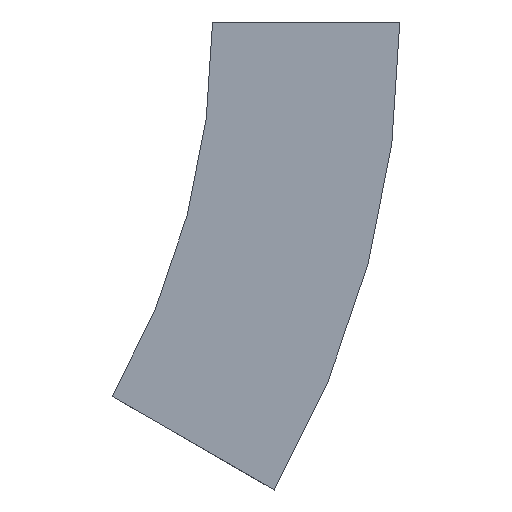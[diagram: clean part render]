
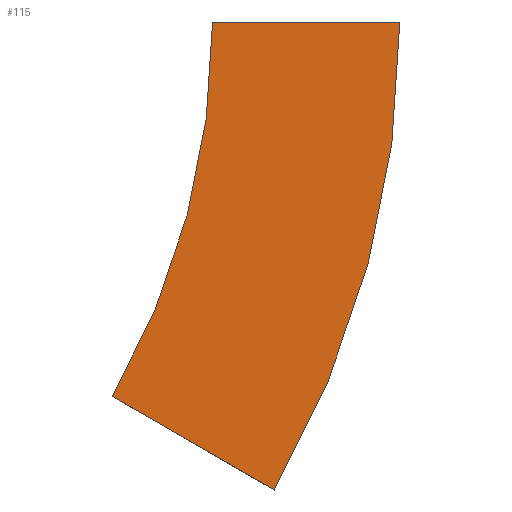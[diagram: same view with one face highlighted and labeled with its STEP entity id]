
A CAD part, left-side view. The second image highlights one B-rep face of the part: STEP entity #115.
In plain terms, the highlighted planar face has unit normal (-1, 0, 0) as drawn and (1, 0, 0) by its records, which use the part's own axes.
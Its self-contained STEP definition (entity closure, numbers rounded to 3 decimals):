
#24 = DIRECTION ( 'NONE',  ( -1., 0., 0. ) ) ;
#55 = AXIS2_PLACEMENT_3D ( 'NONE', #204, #24, #150 ) ;
#90 = VERTEX_POINT ( 'NONE', #355 ) ;
#96 = EDGE_CURVE ( 'NONE', #90, #563, #313, .T. ) ;
#115 = ADVANCED_FACE ( 'NONE', ( #411 ), #152, .F. ) ;
#148 = CARTESIAN_POINT ( 'NONE',  ( 0., 40.192, -150. ) ) ;
#150 = DIRECTION ( 'NONE',  ( 0., 0., 1. ) ) ;
#152 = PLANE ( 'NONE',  #55 ) ;
#163 = CARTESIAN_POINT ( 'NONE',  ( 0., -24.76, -187.5 ) ) ;
#179 = LINE ( 'NONE', #431, #383 ) ;
#194 = EDGE_CURVE ( 'NONE', #262, #563, #562, .T. ) ;
#204 = CARTESIAN_POINT ( 'NONE',  ( 0., -75., 0. ) ) ;
#210 = CARTESIAN_POINT ( 'NONE',  ( 0., -75., 0. ) ) ;
#227 = EDGE_CURVE ( 'NONE', #379, #90, #304, .T. ) ;
#241 = DIRECTION ( 'NONE',  ( 1., 0., 0. ) ) ;
#256 = ORIENTED_EDGE ( 'NONE', *, *, #96, .T. ) ;
#262 = VERTEX_POINT ( 'NONE', #544 ) ;
#281 = ORIENTED_EDGE ( 'NONE', *, *, #194, .F. ) ;
#285 = ORIENTED_EDGE ( 'NONE', *, *, #227, .T. ) ;
#304 = CIRCLE ( 'NONE', #456, 375. ) ;
#313 = LINE ( 'NONE', #163, #477 ) ;
#315 = CARTESIAN_POINT ( 'NONE',  ( 0., 300., 0. ) ) ;
#322 = DIRECTION ( 'NONE',  ( 0., 0.866, 0.5 ) ) ;
#325 = ORIENTED_EDGE ( 'NONE', *, *, #499, .F. ) ;
#355 = CARTESIAN_POINT ( 'NONE',  ( 0., -24.76, -187.5 ) ) ;
#361 = CARTESIAN_POINT ( 'NONE',  ( 0., 300., 0. ) ) ;
#362 = EDGE_LOOP ( 'NONE', ( #281, #325, #285, #256 ) ) ;
#379 = VERTEX_POINT ( 'NONE', #210 ) ;
#383 = VECTOR ( 'NONE', #484, 1000. ) ;
#404 = AXIS2_PLACEMENT_3D ( 'NONE', #315, #500, #460 ) ;
#411 = FACE_OUTER_BOUND ( 'NONE', #362, .T. ) ;
#423 = DIRECTION ( 'NONE',  ( 0., -1., 0. ) ) ;
#431 = CARTESIAN_POINT ( 'NONE',  ( 0., -75., 0. ) ) ;
#456 = AXIS2_PLACEMENT_3D ( 'NONE', #361, #241, #423 ) ;
#460 = DIRECTION ( 'NONE',  ( 0., -1., 0. ) ) ;
#477 = VECTOR ( 'NONE', #322, 1000. ) ;
#484 = DIRECTION ( 'NONE',  ( 0., 1., 0. ) ) ;
#499 = EDGE_CURVE ( 'NONE', #379, #262, #179, .T. ) ;
#500 = DIRECTION ( 'NONE',  ( 1., 0., 0. ) ) ;
#544 = CARTESIAN_POINT ( 'NONE',  ( 0., 0., 0. ) ) ;
#562 = CIRCLE ( 'NONE', #404, 300. ) ;
#563 = VERTEX_POINT ( 'NONE', #148 ) ;
